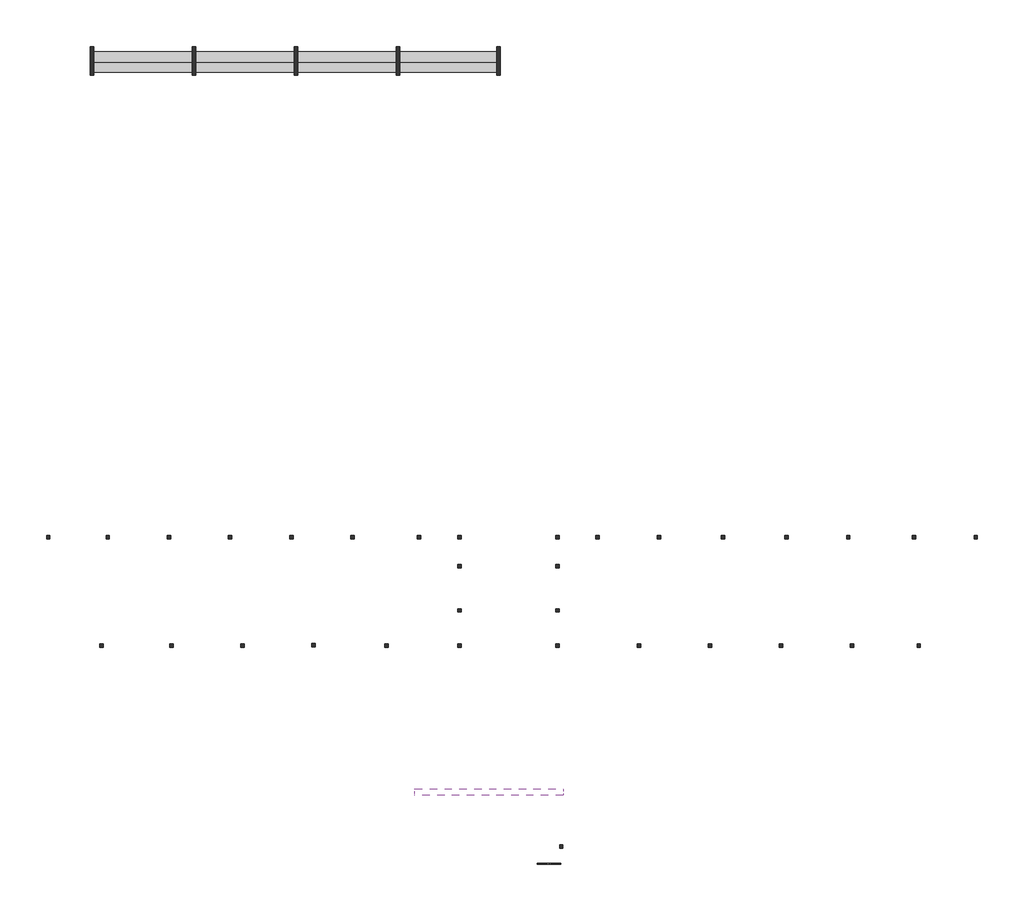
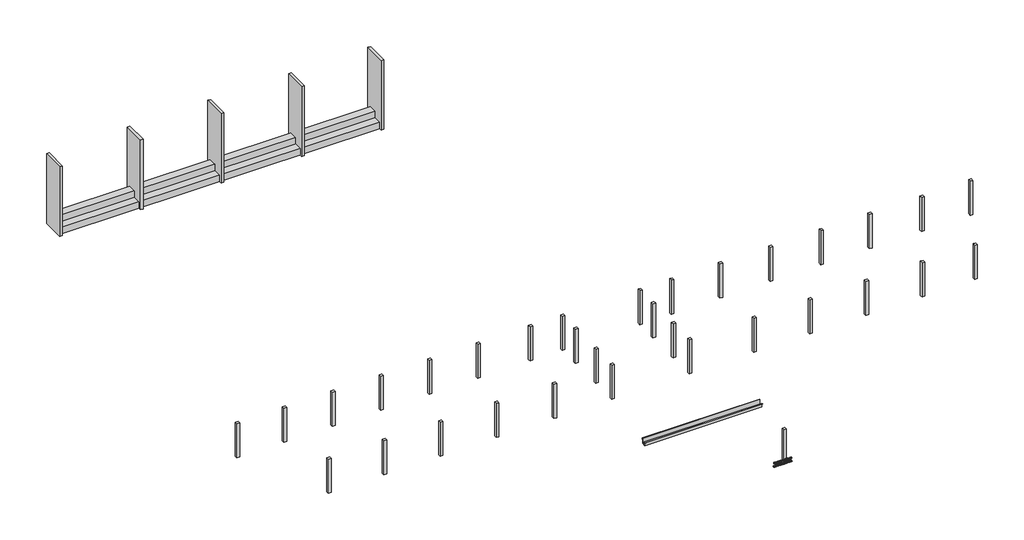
# One storey, incomplete: 38 columns, 3 proxies.
"""IFC4 building model written with IfcOpenShell, lengths in millimetres."""

from ifc_helpers import new_model, si_unit, frame, origin, place, context, project, spatial, polyline, outline, extrude, transform, mapped, element, save
from components import generic_models_8b9096ce, generic_models_4c986af3, column_bc19908c, fde_s601_pilarmadeira_retangular_l20xp20cm_9d354448

model = new_model("IFC4")

# Units and contexts
model_context = context("Model", 3, world=origin())
ifc_project = project(units=[si_unit("LENGTHUNIT", "METRE", prefix="MILLI")], contexts=[model_context])

# Site, building, storey
site = spatial("IfcSite", under=ifc_project)
building = spatial("IfcBuilding", under=site)
storey = spatial("IfcBuildingStorey", under=building, Name="Térreo - Acabado", Elevation=220.0)

# Proxies
placement = place(None, origin())
generic_models_shape = generic_models_8b9096ce(model_context)
element("IfcBuildingElementProxy", 1, Name="Arquibancada1 : Arquibancada", ObjectType="Arquibancada1 : Arquibancada", at=placement, inside=storey, context=model_context, shape_type="MappedRepresentation", body=[
    mapped(generic_models_shape, transform((-16758.5960699, 4064.2879286, -157.0), x_axis=(1.0, 0.0, 0.0), y_axis=(0.0, 1.0, 0.0), z_axis=(0.0, 0.0, 1.0))),
])
generic_models_2_shape = generic_models_4c986af3(model_context)
element("IfcBuildingElementProxy", 2, Name="Modelos genéricos 5 : Modelos genéricos 1", ObjectType="Modelos genéricos 5 : Modelos genéricos 1", at=placement, inside=storey, context=model_context, shape_type="MappedRepresentation", body=[
    mapped(generic_models_2_shape, transform((-18895.3081586, -8603.8417899, -5688.6531931), x_axis=(1.0, 0.0, 0.0), y_axis=(0.0, 1.0, 0.0), z_axis=(0.0, 0.0, 1.0))),
])
element("IfcBuildingElementProxy", 3, Name=".2", ObjectType=".2", at=placement, inside=storey, context=model_context, shape_type="SweptSolid", body=[
    extrude(outline(polyline([(1313.4572025, -29166.3446133), (1255.9449839, -29166.3446133), (1240.22416, -29167.9326372), (1230.5856517, -29172.6967091), (1225.6376389, -29181.1886518), (1223.9883013, -29193.9602884), (1227.3237647, -29208.7246191), (1236.8028574, -29217.2349559), (1255.9449839, -29219.7120281), (1313.4572025, -29219.7120281), (1313.4572025, -29232.2690668), (1255.5035255, -29232.2690668), (1230.3526598, -29228.4553568), (1222.2316647, -29223.3663225), (1216.2873048, -29215.7266398), (1211.4312625, -29192.783066), (1212.8261484, -29179.7477806), (1217.0108061, -29169.483873), (1231.4808312, -29157.1966143), (1255.5035255, -29153.7875745), (1313.4572025, -29153.7875745), (1313.4572025, -29166.3446133)])), frame((0.0, -17.6612909, 0.0), z_axis=(0.0, 1.0, 0.0), x_axis=(0.0, 0.0, 1.0)), (0.0, 0.0, 1.0), 50.0),
    extrude(outline(polyline([(1213.0008924, -29131.8127567), (1213.0008924, -29119.2557179), (1292.6105561, -29119.2557179), (1213.0008924, -29066.7712199), (1213.0008924, -29053.3312644), (1313.4572025, -29053.3312644), (1313.4572025, -29065.8883031), (1233.8720642, -29065.8883031), (1313.4572025, -29118.3728011), (1313.4572025, -29131.8127567), (1213.0008924, -29131.8127567)])), frame((0.0, -17.6612909, 0.0), z_axis=(0.0, 1.0, 0.0), x_axis=(0.0, 0.0, 1.0)), (0.0, 0.0, 1.0), 50.0),
    extrude(outline(polyline([(-29017.2297779, -17.6612909), (-29029.7868167, -17.6612909), (-29029.7868167, 32.3387091), (-29017.2297779, 32.3387091), (-29017.2297779, -17.6612909)])), frame((0.0, 0.0, 1213.0008924), z_axis=(0.0, 0.0, 1.0), x_axis=(1.0, 0.0, 0.0)), (0.0, 0.0, 1.0), 100.4563101),
    extrude(outline(polyline([(1213.0008924, -28992.1157004), (1213.0008924, -28955.7934847), (1214.717675, -28939.6434651), (1219.7576583, -28927.6382493), (1228.8688691, -28918.4657249), (1243.4983098, -28911.5985944), (1263.7686077, -28908.9253185), (1287.6564119, -28912.8739186), (1304.8242384, -28924.7687698), (1312.0102, -28939.5331005), (1313.4572025, -28957.4612164), (1313.4572025, -28992.1157004), (1213.0008924, -28992.1157004)]), holes=[polyline([(1225.5579311, -28979.5586616), (1300.9001637, -28979.5586616), (1300.9001637, -28957.6819456), (1298.8890755, -28939.8764571), (1287.7545138, -28926.8411717), (1277.6500216, -28922.8220609), (1263.9648114, -28921.4823573), (1244.9698377, -28924.2169468), (1232.4986381, -28931.8566296), (1227.3728156, -28941.1763068), (1225.5579311, -28957.3385891), (1225.5579311, -28979.5586616)])]), frame((0.0, -17.6612909, 0.0), z_axis=(0.0, 1.0, 0.0), x_axis=(0.0, 0.0, 1.0)), (0.0, 0.0, 1.0), 50.0),
    extrude(outline(polyline([(1213.0008924, -28903.3580377), (1213.0008924, -28890.0897604), (1244.3934893, -28878.6118421), (1244.3934893, -28837.2373804), (1213.0008924, -28825.7349367), (1213.0008924, -28812.4666594), (1313.4572025, -28852.5657969), (1313.4572025, -28863.2589002), (1213.0008924, -28903.3580377)]), holes=[polyline([(1256.950528, -28874.0010544), (1283.8059137, -28864.1663424), (1300.9001637, -28857.9123485), (1281.6476727, -28850.8735397), (1256.950528, -28841.8236426), (1256.950528, -28874.0010544)])]), frame((0.0, -17.6612909, 0.0), z_axis=(0.0, 1.0, 0.0), x_axis=(0.0, 0.0, 1.0)), (0.0, 0.0, 1.0), 50.0),
    extrude(outline(polyline([(1213.0008924, -28799.0512293), (1213.0008924, -28762.7290136), (1214.717675, -28746.5789941), (1219.7576583, -28734.5737783), (1228.8688691, -28725.4012539), (1243.4983098, -28718.5341233), (1263.7686077, -28715.8608475), (1287.6564119, -28719.8094475), (1304.8242384, -28731.7042987), (1312.0102, -28746.4686295), (1313.4572025, -28764.3967454), (1313.4572025, -28799.0512293), (1213.0008924, -28799.0512293)]), holes=[polyline([(1225.5579311, -28786.4941905), (1300.9001637, -28786.4941905), (1300.9001637, -28764.6174746), (1298.8890755, -28746.811986), (1287.7545138, -28733.7767006), (1277.6500216, -28729.7575898), (1263.9648114, -28728.4178862), (1244.9698377, -28731.1524757), (1232.4986381, -28738.7921585), (1227.3728156, -28748.1118357), (1225.5579311, -28764.274118), (1225.5579311, -28786.4941905)])]), frame((0.0, -17.6612909, 0.0), z_axis=(0.0, 1.0, 0.0), x_axis=(0.0, 0.0, 1.0)), (0.0, 0.0, 1.0), 50.0),
    extrude(outline(polyline([(1213.0008924, -28698.5949191), (1213.0008924, -28624.8223164), (1225.5579311, -28624.8223164), (1225.5579311, -28686.0378804), (1258.5201579, -28686.0378804), (1258.5201579, -28629.5312059), (1271.0771967, -28629.5312059), (1271.0771967, -28686.0378804), (1300.9001637, -28686.0378804), (1300.9001637, -28626.3919462), (1313.4572025, -28626.3919462), (1313.4572025, -28698.5949191), (1213.0008924, -28698.5949191)])), frame((0.0, -17.6612909, 0.0), z_axis=(0.0, 1.0, 0.0), x_axis=(0.0, 0.0, 1.0)), (0.0, 0.0, 1.0), 50.0),
    extrude(outline(polyline([(1213.0008924, -28566.7460121), (1213.0008924, -28492.9734093), (1225.5579311, -28492.9734093), (1225.5579311, -28554.1889733), (1258.5201579, -28554.1889733), (1258.5201579, -28497.6822989), (1271.0771967, -28497.6822989), (1271.0771967, -28554.1889733), (1300.9001637, -28554.1889733), (1300.9001637, -28494.5430392), (1313.4572025, -28494.5430392), (1313.4572025, -28566.7460121), (1213.0008924, -28566.7460121)])), frame((0.0, -17.6612909, 0.0), z_axis=(0.0, 1.0, 0.0), x_axis=(0.0, 0.0, 1.0)), (0.0, 0.0, 1.0), 50.0),
    extrude(outline(polyline([(1247.532749, -28478.8467407), (1228.3538343, -28473.4266126), (1215.6496427, -28459.2386304), (1211.4312625, -28436.8100914), (1215.3430744, -28417.8151177), (1226.3059578, -28404.8656715), (1241.327806, -28400.3652484), (1255.528051, -28404.2770603), (1265.7061195, -28416.4294288), (1272.0091644, -28438.6495014), (1279.0234478, -28459.1527912), (1287.7299883, -28463.1504422), (1298.1533115, -28457.509585), (1302.4697936, -28439.5324181), (1298.1042606, -28421.6043022), (1292.6963952, -28416.7973108), (1285.2038653, -28414.491917), (1285.2038653, -28401.9348782), (1300.9246892, -28406.9135479), (1311.4461143, -28420.1572997), (1315.0268323, -28440.0229275), (1311.6055298, -28458.6377564), (1301.5746141, -28471.3542107), (1287.3621063, -28475.707481), (1274.8786439, -28472.1880766), (1265.5344413, -28461.507236), (1259.341761, -28441.8255492), (1254.5470323, -28423.5418141), (1248.8448614, -28415.0069518), (1241.0089749, -28412.9222872), (1232.5844772, -28415.7059276), (1226.2814324, -28424.1794762), (1223.9883013, -28437.3006007), (1227.0171964, -28452.359237), (1234.9634475, -28462.243), (1247.532749, -28466.2897019), (1247.532749, -28478.8467407)])), frame((0.0, -17.6612909, 0.0), z_axis=(0.0, 1.0, 0.0), x_axis=(0.0, 0.0, 1.0)), (0.0, 0.0, 1.0), 50.0),
    extrude(outline(polyline([(1248.7099714, -28310.8963472), (1237.9555544, -28314.9583775), (1230.2177697, -28321.5526623), (1225.5456684, -28330.286794), (1223.9883013, -28340.7683652), (1228.5623007, -28358.0956071), (1242.382401, -28369.8923565), (1264.0138624, -28373.681541), (1282.6777422, -28370.4809677), (1297.0987165, -28359.3831941), (1302.4697936, -28339.7382956), (1297.626014, -28322.7666729), (1282.1872329, -28312.465977), (1285.1793398, -28299.9089382), (1297.7854295, -28305.4547593), (1307.2032086, -28314.0969205), (1313.0709264, -28325.4798026), (1315.0268323, -28339.2477863), (1313.5154505, -28351.8661387), (1308.9813049, -28363.3808451), (1301.5347602, -28373.0898641), (1291.2861809, -28380.2911542), (1278.6371717, -28384.7517234), (1263.9893369, -28386.2385798), (1237.1339512, -28380.9778672), (1226.1036227, -28374.5154069), (1218.028613, -28365.6494508), (1213.0806001, -28354.0826277), (1211.4312625, -28339.5175664), (1213.6109633, -28325.1701686), (1220.1500658, -28313.2262665), (1230.8401034, -28304.1334498), (1245.4726098, -28298.3393084), (1248.7099714, -28310.8963472)])), frame((0.0, -17.6612909, 0.0), z_axis=(0.0, 1.0, 0.0), x_axis=(0.0, 0.0, 1.0)), (0.0, 0.0, 1.0), 50.0),
    extrude(outline(polyline([(1261.9046722, -28285.7822696), (1236.9009593, -28280.0433105), (1226.3366147, -28272.9554507), (1218.2616049, -28263.1697897), (1213.1388481, -28251.2872012), (1211.4312625, -28237.9085593), (1212.9763669, -28225.3055353), (1217.61168, -28213.5915594), (1225.2513628, -28203.6035633), (1235.8095761, -28196.1784783), (1248.6302636, -28191.5707563), (1263.0573692, -28190.034849), (1277.2944024, -28191.4941143), (1289.9372803, -28195.87191), (1300.4770994, -28203.0333462), (1308.4049564, -28212.8435327), (1313.3713634, -28224.6586761), (1315.0268323, -28237.8349829), (1311.5012966, -28257.0568172), (1300.9246892, -28272.391365), (1284.1186134, -28282.4345435), (1261.9046722, -28285.7822696)]), holes=[polyline([(1261.7820449, -28273.2252309), (1280.5716178, -28270.6071373), (1293.0888027, -28262.7528567), (1300.1245459, -28251.2688071), (1302.4697936, -28237.7614065), (1297.6014885, -28219.3305186), (1283.8794901, -28206.8593189), (1263.155471, -28202.5918878), (1246.5333362, -28205.0842883), (1234.1908953, -28212.5614899), (1226.5389498, -28223.9014524), (1223.9883013, -28237.9821357), (1226.5144243, -28251.860484), (1234.0927934, -28263.1820524), (1246.0673524, -28270.7144362), (1261.7820449, -28273.2252309)])]), frame((0.0, -17.6612909, 0.0), z_axis=(0.0, 1.0, 0.0), x_axis=(0.0, 0.0, 1.0)), (0.0, 0.0, 1.0), 50.0),
    extrude(outline(polyline([(1213.0008924, -28172.7689207), (1213.0008924, -28109.9837269), (1225.5579311, -28109.9837269), (1225.5579311, -28160.2118819), (1313.4572025, -28160.2118819), (1313.4572025, -28172.7689207), (1213.0008924, -28172.7689207)])), frame((0.0, -17.6612909, 0.0), z_axis=(0.0, 1.0, 0.0), x_axis=(0.0, 0.0, 1.0)), (0.0, 0.0, 1.0), 50.0),
    extrude(outline(polyline([(1213.0008924, -28107.5557057), (1213.0008924, -28094.2874284), (1244.3934893, -28082.8095102), (1244.3934893, -28041.4350484), (1213.0008924, -28029.9326047), (1213.0008924, -28016.6643274), (1313.4572025, -28056.7634649), (1313.4572025, -28067.4565682), (1213.0008924, -28107.5557057)]), holes=[polyline([(1256.950528, -28078.1987225), (1283.8059137, -28068.3640105), (1300.9001637, -28062.1100166), (1281.6476727, -28055.0712077), (1256.950528, -28046.0213106), (1256.950528, -28078.1987225)])]), frame((0.0, -17.6612909, 0.0), z_axis=(0.0, 1.0, 0.0), x_axis=(0.0, 0.0, 1.0)), (0.0, 0.0, 1.0), 50.0),
    extrude(outline(polyline([(1213.0008924, -28003.2488973), (1213.0008924, -27990.6918586), (1256.950528, -27990.6918586), (1256.950528, -27975.5351204), (1256.5090697, -27968.2510569), (1254.1178367, -27962.2791058), (1247.6063254, -27955.6449672), (1233.8230133, -27946.2026626), (1213.0008924, -27933.1305891), (1213.0008924, -27918.5379366), (1240.22416, -27935.2888301), (1253.1490808, -27945.4668986), (1258.5201579, -27952.6038093), (1261.8494899, -27940.2337772), (1267.8643606, -27931.5732219), (1276.0681291, -27926.4688593), (1285.9641547, -27924.767405), (1301.1576811, -27928.8754206), (1310.7471385, -27939.8628296), (1313.4572025, -27959.9614492), (1313.4572025, -28003.2488973), (1213.0008924, -28003.2488973)]), holes=[polyline([(1269.5075668, -27990.6918586), (1300.9001637, -27990.6918586), (1300.9001637, -27959.421889), (1296.5591562, -27942.6342073), (1285.4981709, -27937.3244438), (1276.9755713, -27940.1080842), (1271.2856631, -27948.2505391), (1269.5075668, -27962.5856741), (1269.5075668, -27990.6918586)])]), frame((0.0, -17.6612909, 0.0), z_axis=(0.0, 1.0, 0.0), x_axis=(0.0, 0.0, 1.0)), (0.0, 0.0, 1.0), 50.0),
    extrude(outline(polyline([(1003.5831133, -29276.2187025), (984.4041986, -29270.7985744), (971.700007, -29256.6105922), (967.4816268, -29234.1820532), (971.3934387, -29215.1870795), (982.3563222, -29202.2376333), (997.3781703, -29197.7372102), (1011.5784153, -29201.6490221), (1021.7564838, -29213.8013907), (1028.0595287, -29236.0214632), (1035.0738121, -29256.524753), (1043.7803526, -29260.522404), (1054.2036758, -29254.8815468), (1058.5201579, -29236.90438), (1054.1546249, -29218.9762641), (1048.7467596, -29214.1692727), (1041.2542296, -29211.8638788), (1041.2542296, -29199.3068401), (1056.9750535, -29204.2855097), (1067.4964786, -29217.5292615), (1071.0771967, -29237.3948893), (1067.6558941, -29256.0097182), (1057.6249784, -29268.7261725), (1043.4124706, -29273.0794428), (1030.9290083, -29269.5600384), (1021.5848056, -29258.8791978), (1015.3921253, -29239.1975111), (1010.5973967, -29220.9137759), (1004.8952257, -29212.3789136), (997.0593392, -29210.294249), (988.6348415, -29213.0778894), (982.3317967, -29221.551438), (980.0386656, -29234.6725625), (983.0675607, -29249.7311989), (991.0138118, -29259.6149618), (1003.5831133, -29263.6616637), (1003.5831133, -29276.2187025)])), frame((0.0, -17.6612909, 0.0), z_axis=(0.0, 1.0, 0.0), x_axis=(0.0, 0.0, 1.0)), (0.0, 0.0, 1.0), 50.0),
    extrude(outline(polyline([(969.0512567, -29190.6002995), (969.0512567, -29177.3320222), (1000.4438536, -29165.854104), (1000.4438536, -29124.4796422), (969.0512567, -29112.9771985), (969.0512567, -29099.7089212), (1069.5075668, -29139.8080587), (1069.5075668, -29150.501162), (969.0512567, -29190.6002995)]), holes=[polyline([(1013.0008924, -29161.2433163), (1039.856278, -29151.4086043), (1056.950528, -29145.1546104), (1037.698037, -29138.1158015), (1013.0008924, -29129.0659044), (1013.0008924, -29161.2433163)])]), frame((0.0, -17.6612909, 0.0), z_axis=(0.0, 1.0, 0.0), x_axis=(0.0, 0.0, 1.0)), (0.0, 0.0, 1.0), 50.0),
    extrude(outline(polyline([(969.0512567, -29061.1794136), (969.0512567, -29048.6223748), (1056.950528, -29048.6223748), (1056.950528, -29015.6601481), (1069.5075668, -29015.6601481), (1069.5075668, -29094.1416404), (1056.950528, -29094.1416404), (1056.950528, -29061.1794136), (969.0512567, -29061.1794136)])), frame((0.0, -17.6612909, 0.0), z_axis=(0.0, 1.0, 0.0), x_axis=(0.0, 0.0, 1.0)), (0.0, 0.0, 1.0), 50.0),
    extrude(outline(polyline([(1069.5075668, -28935.6090259), (1011.9953482, -28935.6090259), (996.2745243, -28937.1970499), (986.636016, -28941.9611217), (981.6880032, -28950.4530644), (980.0386656, -28963.224701), (983.374129, -28977.9890318), (992.8532218, -28986.4993686), (1011.9953482, -28988.9764407), (1069.5075668, -28988.9764407), (1069.5075668, -29001.5334794), (1011.5538898, -29001.5334794), (986.4030241, -28997.7197694), (978.2820291, -28992.6307352), (972.3376692, -28984.9910524), (967.4816268, -28962.0474786), (968.8765127, -28949.0121933), (973.0611704, -28938.7482856), (987.5311956, -28926.461027), (1011.5538898, -28923.0519871), (1069.5075668, -28923.0519871), (1069.5075668, -28935.6090259)])), frame((0.0, -17.6612909, 0.0), z_axis=(0.0, 1.0, 0.0), x_axis=(0.0, 0.0, 1.0)), (0.0, 0.0, 1.0), 50.0),
    extrude(outline(polyline([(969.0512567, -28901.0771693), (969.0512567, -28888.5201305), (1013.0008924, -28888.5201305), (1013.0008924, -28873.3633923), (1012.559434, -28866.0793288), (1010.168201, -28860.1073778), (1003.6566897, -28853.4732391), (989.8733776, -28844.0309346), (969.0512567, -28830.958861), (969.0512567, -28816.3662085), (996.2745243, -28833.1171021), (1009.1994451, -28843.2951706), (1014.5705222, -28850.4320813), (1017.8998543, -28838.0620492), (1023.9147249, -28829.4014939), (1032.1184934, -28824.2971312), (1042.014519, -28822.595677), (1057.2080454, -28826.7036926), (1066.7975028, -28837.6911015), (1069.5075668, -28857.7897212), (1069.5075668, -28901.0771693), (969.0512567, -28901.0771693)]), holes=[polyline([(1025.5579311, -28888.5201305), (1056.950528, -28888.5201305), (1056.950528, -28857.2501609), (1052.6095205, -28840.4624792), (1041.5485352, -28835.1527158), (1033.0259356, -28837.9363562), (1027.3360274, -28846.078811), (1025.5579311, -28860.4139461), (1025.5579311, -28888.5201305)])]), frame((0.0, -17.6612909, 0.0), z_axis=(0.0, 1.0, 0.0), x_axis=(0.0, 0.0, 1.0)), (0.0, 0.0, 1.0), 50.0),
    extrude(outline(polyline([(969.0512567, -28800.6208591), (969.0512567, -28788.0638204), (1048.6609204, -28788.0638204), (969.0512567, -28735.5793224), (969.0512567, -28722.1393668), (1069.5075668, -28722.1393668), (1069.5075668, -28734.6964056), (989.9224285, -28734.6964056), (1069.5075668, -28787.1809036), (1069.5075668, -28800.6208591), (969.0512567, -28800.6208591)])), frame((0.0, -17.6612909, 0.0), z_axis=(0.0, 1.0, 0.0), x_axis=(0.0, 0.0, 1.0)), (0.0, 0.0, 1.0), 50.0),
    extrude(outline(polyline([(-28686.0378804, -17.6612909), (-28698.5949191, -17.6612909), (-28698.5949191, 32.3387091), (-28686.0378804, 32.3387091), (-28686.0378804, -17.6612909)])), frame((0.0, 0.0, 969.0512567), z_axis=(0.0, 0.0, 1.0), x_axis=(1.0, 0.0, 0.0)), (0.0, 0.0, 1.0), 100.4563101),
    extrude(outline(polyline([(969.0512567, -28660.9238028), (969.0512567, -28648.3667641), (1048.6609204, -28648.3667641), (969.0512567, -28595.8822661), (969.0512567, -28582.4423105), (1069.5075668, -28582.4423105), (1069.5075668, -28594.9993493), (989.9224285, -28594.9993493), (1069.5075668, -28647.4838473), (1069.5075668, -28660.9238028), (969.0512567, -28660.9238028)])), frame((0.0, -17.6612909, 0.0), z_axis=(0.0, 1.0, 0.0), x_axis=(0.0, 0.0, 1.0)), (0.0, 0.0, 1.0), 50.0),
    extrude(outline(polyline([(1017.9550366, -28565.1763822), (992.9513236, -28559.4374231), (982.386979, -28552.3495633), (974.3119692, -28542.5639023), (969.1892124, -28530.6813138), (967.4816268, -28517.3026719), (969.0267312, -28504.6996479), (973.6620443, -28492.985672), (981.3017271, -28482.9976759), (991.8599404, -28475.5725909), (1004.6806279, -28470.964869), (1019.1077335, -28469.4289616), (1033.3447667, -28470.8882269), (1045.9876446, -28475.2660226), (1056.5274637, -28482.4274588), (1064.4553207, -28492.2376453), (1069.4217277, -28504.0527887), (1071.0771967, -28517.2290955), (1067.5516609, -28536.4509298), (1056.9750535, -28551.7854776), (1040.1689777, -28561.8286561), (1017.9550366, -28565.1763822)]), holes=[polyline([(1017.8324092, -28552.6193435), (1036.6219821, -28550.0012499), (1049.139167, -28542.1469693), (1056.1749102, -28530.6629197), (1058.5201579, -28517.1555191), (1053.6518528, -28498.7246312), (1039.9298544, -28486.2534315), (1019.2058353, -28481.9860004), (1002.5837005, -28484.4784009), (990.2412596, -28491.9556025), (982.5893141, -28503.295565), (980.0386656, -28517.3762483), (982.5647886, -28531.2545966), (990.1431577, -28542.576165), (1002.1177167, -28550.1085488), (1017.8324092, -28552.6193435)])]), frame((0.0, -17.6612909, 0.0), z_axis=(0.0, 1.0, 0.0), x_axis=(0.0, 0.0, 1.0)), (0.0, 0.0, 1.0), 50.0),
    extrude(outline(polyline([(969.0512567, -28412.9222872), (969.0512567, -28400.3652484), (1056.950528, -28400.3652484), (969.0512567, -28375.1285435), (969.0512567, -28358.1078699), (1056.950528, -28332.871165), (969.0512567, -28332.871165), (969.0512567, -28320.3141262), (1069.5075668, -28320.3141262), (1069.5075668, -28341.9210621), (999.9288188, -28362.1300464), (983.9136893, -28366.6182067), (998.7025455, -28370.7630105), (1069.5075668, -28391.3153513), (1069.5075668, -28412.9222872), (969.0512567, -28412.9222872)])), frame((0.0, -17.6612909, 0.0), z_axis=(0.0, 1.0, 0.0), x_axis=(0.0, 0.0, 1.0)), (0.0, 0.0, 1.0), 50.0),
    extrude(outline(polyline([(1017.9550366, -28303.0481979), (992.9513236, -28297.3092388), (982.386979, -28290.221379), (974.3119692, -28280.435718), (969.1892124, -28268.5531295), (967.4816268, -28255.1744876), (969.0267312, -28242.5714636), (973.6620443, -28230.8574877), (981.3017271, -28220.8694916), (991.8599404, -28213.4444066), (1004.6806279, -28208.8366847), (1019.1077335, -28207.3007773), (1033.3447667, -28208.7600426), (1045.9876446, -28213.1378383), (1056.5274637, -28220.2992745), (1064.4553207, -28230.109461), (1069.4217277, -28241.9246044), (1071.0771967, -28255.1009112), (1067.5516609, -28274.3227455), (1056.9750535, -28289.6572933), (1040.1689777, -28299.7004718), (1017.9550366, -28303.0481979)]), holes=[polyline([(1017.8324092, -28290.4911592), (1036.6219821, -28287.8730656), (1049.139167, -28280.018785), (1056.1749102, -28268.5347354), (1058.5201579, -28255.0273348), (1053.6518528, -28236.5964469), (1039.9298544, -28224.1252472), (1019.2058353, -28219.8578161), (1002.5837005, -28222.3502166), (990.2412596, -28229.8274182), (982.5893141, -28241.1673807), (980.0386656, -28255.248064), (982.5647886, -28269.1264123), (990.1431577, -28280.4479807), (1002.1177167, -28287.9803645), (1017.8324092, -28290.4911592)])]), frame((0.0, -17.6612909, 0.0), z_axis=(0.0, 1.0, 0.0), x_axis=(0.0, 0.0, 1.0)), (0.0, 0.0, 1.0), 50.0),
    extrude(outline(polyline([(1069.5075668, -28124.1103955), (1011.9953482, -28124.1103955), (996.2745243, -28125.6984194), (986.636016, -28130.4624913), (981.6880032, -28138.954434), (980.0386656, -28151.7260706), (983.374129, -28166.4904013), (992.8532218, -28175.0007381), (1011.9953482, -28177.4778102), (1069.5075668, -28177.4778102), (1069.5075668, -28190.034849), (1011.5538898, -28190.034849), (986.4030241, -28186.221139), (978.2820291, -28181.1321047), (972.3376692, -28173.492422), (967.4816268, -28150.5488482), (968.8765127, -28137.5135628), (973.0611704, -28127.2496552), (987.5311956, -28114.9623965), (1011.5538898, -28111.5533567), (1069.5075668, -28111.5533567), (1069.5075668, -28124.1103955)])), frame((0.0, -17.6612909, 0.0), z_axis=(0.0, 1.0, 0.0), x_axis=(0.0, 0.0, 1.0)), (0.0, 0.0, 1.0), 50.0),
    extrude(outline(polyline([(969.0512567, -28089.5785389), (969.0512567, -28077.0215001), (1013.0008924, -28077.0215001), (1013.0008924, -28061.8647619), (1012.559434, -28054.5806984), (1010.168201, -28048.6087473), (1003.6566897, -28041.9746087), (989.8733776, -28032.5323041), (969.0512567, -28019.4602306), (969.0512567, -28004.8675781), (996.2745243, -28021.6184716), (1009.1994451, -28031.7965402), (1014.5705222, -28038.9334509), (1017.8998543, -28026.5634188), (1023.9147249, -28017.9028635), (1032.1184934, -28012.7985008), (1042.014519, -28011.0970466), (1057.2080454, -28015.2050622), (1066.7975028, -28026.1924711), (1069.5075668, -28046.2910908), (1069.5075668, -28089.5785389), (969.0512567, -28089.5785389)]), holes=[polyline([(1025.5579311, -28077.0215001), (1056.950528, -28077.0215001), (1056.950528, -28045.7515305), (1052.6095205, -28028.9638488), (1041.5485352, -28023.6540853), (1033.0259356, -28026.4377258), (1027.3360274, -28034.5801806), (1025.5579311, -28048.9153157), (1025.5579311, -28077.0215001)])]), frame((0.0, -17.6612909, 0.0), z_axis=(0.0, 1.0, 0.0), x_axis=(0.0, 0.0, 1.0)), (0.0, 0.0, 1.0), 50.0),
    extrude(outline(polyline([(969.0512567, -28000.8208762), (969.0512567, -27987.5525989), (1000.4438536, -27976.0746806), (1000.4438536, -27934.7002189), (969.0512567, -27923.1977752), (969.0512567, -27909.9294979), (1069.5075668, -27950.0286354), (1069.5075668, -27960.7217387), (969.0512567, -28000.8208762)]), holes=[polyline([(1013.0008924, -27971.4638929), (1039.856278, -27961.6291809), (1056.950528, -27955.375187), (1037.698037, -27948.3363782), (1013.0008924, -27939.2864811), (1013.0008924, -27971.4638929)])]), frame((0.0, -17.6612909, 0.0), z_axis=(0.0, 1.0, 0.0), x_axis=(0.0, 0.0, 1.0)), (0.0, 0.0, 1.0), 50.0),
])

# Columns
column_shape = column_bc19908c(model_context)
element("IfcColumn", 4, ObjectType="Coluna de Sustentação de tijolo Maciço : coluna da quadra 2", at=placement, inside=storey, context=model_context, shape_type="MappedRepresentation", body=[
    mapped(column_shape, transform((-55486.66665, 47250.0, 0.0), x_axis=(0.0, 1.0, 0.0), y_axis=(-1.0, 0.0, 0.0), z_axis=(0.0, 0.0, 1.0))),
])
element("IfcColumn", 5, ObjectType="Coluna de Sustentação de tijolo Maciço : coluna da quadra 2", at=placement, inside=storey, context=model_context, shape_type="MappedRepresentation", body=[
    mapped(column_shape, transform((-49486.66665, 47250.0, 0.0), x_axis=(0.0, 1.0, 0.0), y_axis=(-1.0, 0.0, 0.0), z_axis=(0.0, 0.0, 1.0))),
])
element("IfcColumn", 6, ObjectType="Coluna de Sustentação de tijolo Maciço : coluna da quadra 2", at=placement, inside=storey, context=model_context, shape_type="MappedRepresentation", body=[
    mapped(column_shape, transform((-43486.66665, 47250.0, 0.0), x_axis=(0.0, 1.0, 0.0), y_axis=(-1.0, 0.0, 0.0), z_axis=(0.0, 0.0, 1.0))),
])
element("IfcColumn", 7, ObjectType="Coluna de Sustentação de tijolo Maciço : coluna da quadra 2", at=placement, inside=storey, context=model_context, shape_type="MappedRepresentation", body=[
    mapped(column_shape, transform((-37486.66665, 47250.0, 0.0), x_axis=(0.0, 1.0, 0.0), y_axis=(-1.0, 0.0, 0.0), z_axis=(0.0, 0.0, 1.0))),
])
element("IfcColumn", 8, ObjectType="Coluna de Sustentação de tijolo Maciço : coluna da quadra 2", at=placement, inside=storey, context=model_context, shape_type="MappedRepresentation", body=[
    mapped(column_shape, transform((-31576.66665, 47250.0, 0.0), x_axis=(0.0, 1.0, 0.0), y_axis=(-1.0, 0.0, 0.0), z_axis=(0.0, 0.0, 1.0))),
])
fde_s601_pilarmadeira_retangular_l20xp20cm_shape = fde_s601_pilarmadeira_retangular_l20xp20cm_9d354448(model_context)
element("IfcColumn", 9, ObjectType="FDE_S601_PilarMadeira_Retangular : L20xP20cm", at=placement, inside=storey, context=model_context, shape_type="MappedRepresentation", body=[
    mapped(fde_s601_pilarmadeira_retangular_l20xp20cm_shape, transform((-54923.4091269, 12850.0, 0.0), x_axis=(1.0, 0.0, 0.0), y_axis=(0.0, 1.0, 0.0), z_axis=(0.0, 0.0, 1.0))),
])
element("IfcColumn", 10, ObjectType="FDE_S601_PilarMadeira_Retangular : L20xP20cm", at=placement, inside=storey, context=model_context, shape_type="MappedRepresentation", body=[
    mapped(fde_s601_pilarmadeira_retangular_l20xp20cm_shape, transform((-50798.4091269, 12850.0, 0.0), x_axis=(1.0, 0.0, 0.0), y_axis=(0.0, 1.0, 0.0), z_axis=(0.0, 0.0, 1.0))),
])
element("IfcColumn", 11, ObjectType="FDE_S601_PilarMadeira_Retangular : L20xP20cm", at=placement, inside=storey, context=model_context, shape_type="MappedRepresentation", body=[
    mapped(fde_s601_pilarmadeira_retangular_l20xp20cm_shape, transform((-46623.4091269, 12850.0, 0.0), x_axis=(1.0, 0.0, 0.0), y_axis=(0.0, 1.0, 0.0), z_axis=(0.0, 0.0, 1.0))),
])
element("IfcColumn", 12, ObjectType="FDE_S601_PilarMadeira_Retangular : L20xP20cm", at=placement, inside=storey, context=model_context, shape_type="MappedRepresentation", body=[
    mapped(fde_s601_pilarmadeira_retangular_l20xp20cm_shape, transform((-42448.4091269, 12865.0, 0.0), x_axis=(1.0, 0.0, 0.0), y_axis=(0.0, 1.0, 0.0), z_axis=(0.0, 0.0, 1.0))),
])
element("IfcColumn", 13, ObjectType="FDE_S601_PilarMadeira_Retangular : L20xP20cm", at=placement, inside=storey, context=model_context, shape_type="MappedRepresentation", body=[
    mapped(fde_s601_pilarmadeira_retangular_l20xp20cm_shape, transform((-38150.9091269, 12850.0, 0.0), x_axis=(1.0, 0.0, 0.0), y_axis=(0.0, 1.0, 0.0), z_axis=(0.0, 0.0, 1.0))),
])
element("IfcColumn", 14, ObjectType="FDE_S601_PilarMadeira_Retangular : L20xP20cm", at=placement, inside=storey, context=model_context, shape_type="MappedRepresentation", body=[
    mapped(fde_s601_pilarmadeira_retangular_l20xp20cm_shape, transform((-33853.4091269, 12850.0, 0.0), x_axis=(1.0, 0.0, 0.0), y_axis=(0.0, 1.0, 0.0), z_axis=(0.0, 0.0, 1.0))),
])
element("IfcColumn", 15, ObjectType="FDE_S601_PilarMadeira_Retangular : L20xP20cm", at=placement, inside=storey, context=model_context, shape_type="MappedRepresentation", body=[
    mapped(fde_s601_pilarmadeira_retangular_l20xp20cm_shape, transform((-28100.0, 12850.0, 0.0), x_axis=(1.0, 0.0, 0.0), y_axis=(0.0, 1.0, 0.0), z_axis=(0.0, 0.0, 1.0))),
])
element("IfcColumn", 16, ObjectType="FDE_S601_PilarMadeira_Retangular : L20xP20cm", at=placement, inside=storey, context=model_context, shape_type="MappedRepresentation", body=[
    mapped(fde_s601_pilarmadeira_retangular_l20xp20cm_shape, transform((-23300.0, 12850.0, 0.0), x_axis=(1.0, 0.0, 0.0), y_axis=(0.0, 1.0, 0.0), z_axis=(0.0, 0.0, 1.0))),
])
element("IfcColumn", 17, ObjectType="FDE_S601_PilarMadeira_Retangular : L20xP20cm", at=placement, inside=storey, context=model_context, shape_type="MappedRepresentation", body=[
    mapped(fde_s601_pilarmadeira_retangular_l20xp20cm_shape, transform((-19125.0, 12850.0, 0.0), x_axis=(1.0, 0.0, 0.0), y_axis=(0.0, 1.0, 0.0), z_axis=(0.0, 0.0, 1.0))),
])
element("IfcColumn", 18, ObjectType="FDE_S601_PilarMadeira_Retangular : L20xP20cm", at=placement, inside=storey, context=model_context, shape_type="MappedRepresentation", body=[
    mapped(fde_s601_pilarmadeira_retangular_l20xp20cm_shape, transform((-14950.0, 12850.0, 0.0), x_axis=(1.0, 0.0, 0.0), y_axis=(0.0, 1.0, 0.0), z_axis=(0.0, 0.0, 1.0))),
])
element("IfcColumn", 19, ObjectType="FDE_S601_PilarMadeira_Retangular : L20xP20cm", at=placement, inside=storey, context=model_context, shape_type="MappedRepresentation", body=[
    mapped(fde_s601_pilarmadeira_retangular_l20xp20cm_shape, transform((-10775.0, 12850.0, 0.0), x_axis=(1.0, 0.0, 0.0), y_axis=(0.0, 1.0, 0.0), z_axis=(0.0, 0.0, 1.0))),
])
element("IfcColumn", 20, ObjectType="FDE_S601_PilarMadeira_Retangular : L20xP20cm", at=placement, inside=storey, context=model_context, shape_type="MappedRepresentation", body=[
    mapped(fde_s601_pilarmadeira_retangular_l20xp20cm_shape, transform((-6850.0, 12850.0, 0.0), x_axis=(1.0, 0.0, 0.0), y_axis=(0.0, 1.0, 0.0), z_axis=(0.0, 0.0, 1.0))),
])
element("IfcColumn", 21, ObjectType="FDE_S601_PilarMadeira_Retangular : L20xP20cm", at=placement, inside=storey, context=model_context, shape_type="MappedRepresentation", body=[
    mapped(fde_s601_pilarmadeira_retangular_l20xp20cm_shape, transform((-33853.4091269, 19230.0, 0.0), x_axis=(1.0, 0.0, 0.0), y_axis=(0.0, 1.0, 0.0), z_axis=(0.0, 0.0, 1.0))),
])
element("IfcColumn", 22, ObjectType="FDE_S601_PilarMadeira_Retangular : L20xP20cm", at=placement, inside=storey, context=model_context, shape_type="MappedRepresentation", body=[
    mapped(fde_s601_pilarmadeira_retangular_l20xp20cm_shape, transform((-28100.0, 19230.0, 0.0), x_axis=(1.0, 0.0, 0.0), y_axis=(0.0, 1.0, 0.0), z_axis=(0.0, 0.0, 1.0))),
])
element("IfcColumn", 23, ObjectType="FDE_S601_PilarMadeira_Retangular : L20xP20cm", at=placement, inside=storey, context=model_context, shape_type="MappedRepresentation", body=[
    mapped(fde_s601_pilarmadeira_retangular_l20xp20cm_shape, transform((-25750.0, 19230.0, 0.0), x_axis=(1.0, 0.0, 0.0), y_axis=(0.0, 1.0, 0.0), z_axis=(0.0, 0.0, 1.0))),
])
element("IfcColumn", 24, ObjectType="FDE_S601_PilarMadeira_Retangular : L20xP20cm", at=placement, inside=storey, context=model_context, shape_type="MappedRepresentation", body=[
    mapped(fde_s601_pilarmadeira_retangular_l20xp20cm_shape, transform((-22125.0, 19230.0, 0.0), x_axis=(1.0, 0.0, 0.0), y_axis=(0.0, 1.0, 0.0), z_axis=(0.0, 0.0, 1.0))),
])
element("IfcColumn", 25, ObjectType="FDE_S601_PilarMadeira_Retangular : L20xP20cm", at=placement, inside=storey, context=model_context, shape_type="MappedRepresentation", body=[
    mapped(fde_s601_pilarmadeira_retangular_l20xp20cm_shape, transform((-18375.0, 19230.0, 0.0), x_axis=(1.0, 0.0, 0.0), y_axis=(0.0, 1.0, 0.0), z_axis=(0.0, 0.0, 1.0))),
])
element("IfcColumn", 26, ObjectType="FDE_S601_PilarMadeira_Retangular : L20xP20cm", at=placement, inside=storey, context=model_context, shape_type="MappedRepresentation", body=[
    mapped(fde_s601_pilarmadeira_retangular_l20xp20cm_shape, transform((-14625.0, 19230.0, 0.0), x_axis=(1.0, 0.0, 0.0), y_axis=(0.0, 1.0, 0.0), z_axis=(0.0, 0.0, 1.0))),
])
element("IfcColumn", 27, ObjectType="FDE_S601_PilarMadeira_Retangular : L20xP20cm", at=placement, inside=storey, context=model_context, shape_type="MappedRepresentation", body=[
    mapped(fde_s601_pilarmadeira_retangular_l20xp20cm_shape, transform((-11000.0, 19230.0, 0.0), x_axis=(1.0, 0.0, 0.0), y_axis=(0.0, 1.0, 0.0), z_axis=(0.0, 0.0, 1.0))),
])
element("IfcColumn", 28, ObjectType="FDE_S601_PilarMadeira_Retangular : L20xP20cm", at=placement, inside=storey, context=model_context, shape_type="MappedRepresentation", body=[
    mapped(fde_s601_pilarmadeira_retangular_l20xp20cm_shape, transform((-7125.0, 19230.0, 0.0), x_axis=(1.0, 0.0, 0.0), y_axis=(0.0, 1.0, 0.0), z_axis=(0.0, 0.0, 1.0))),
])
element("IfcColumn", 29, ObjectType="FDE_S601_PilarMadeira_Retangular : L20xP20cm", at=placement, inside=storey, context=model_context, shape_type="MappedRepresentation", body=[
    mapped(fde_s601_pilarmadeira_retangular_l20xp20cm_shape, transform((-3500.0, 19230.0, 0.0), x_axis=(1.0, 0.0, 0.0), y_axis=(0.0, 1.0, 0.0), z_axis=(0.0, 0.0, 1.0))),
])
element("IfcColumn", 30, ObjectType="FDE_S601_PilarMadeira_Retangular : L20xP20cm", at=placement, inside=storey, context=model_context, shape_type="MappedRepresentation", body=[
    mapped(fde_s601_pilarmadeira_retangular_l20xp20cm_shape, transform((-36250.0, 19230.0, 0.0), x_axis=(1.0, 0.0, 0.0), y_axis=(0.0, 1.0, 0.0), z_axis=(0.0, 0.0, 1.0))),
])
element("IfcColumn", 31, ObjectType="FDE_S601_PilarMadeira_Retangular : L20xP20cm", at=placement, inside=storey, context=model_context, shape_type="MappedRepresentation", body=[
    mapped(fde_s601_pilarmadeira_retangular_l20xp20cm_shape, transform((-40150.0, 19230.0, 0.0), x_axis=(1.0, 0.0, 0.0), y_axis=(0.0, 1.0, 0.0), z_axis=(0.0, 0.0, 1.0))),
])
element("IfcColumn", 32, ObjectType="FDE_S601_PilarMadeira_Retangular : L20xP20cm", at=placement, inside=storey, context=model_context, shape_type="MappedRepresentation", body=[
    mapped(fde_s601_pilarmadeira_retangular_l20xp20cm_shape, transform((-43750.0, 19230.0, 0.0), x_axis=(1.0, 0.0, 0.0), y_axis=(0.0, 1.0, 0.0), z_axis=(0.0, 0.0, 1.0))),
])
element("IfcColumn", 33, ObjectType="FDE_S601_PilarMadeira_Retangular : L20xP20cm", at=placement, inside=storey, context=model_context, shape_type="MappedRepresentation", body=[
    mapped(fde_s601_pilarmadeira_retangular_l20xp20cm_shape, transform((-47350.0, 19230.0, 0.0), x_axis=(1.0, 0.0, 0.0), y_axis=(0.0, 1.0, 0.0), z_axis=(0.0, 0.0, 1.0))),
])
element("IfcColumn", 34, ObjectType="FDE_S601_PilarMadeira_Retangular : L20xP20cm", at=placement, inside=storey, context=model_context, shape_type="MappedRepresentation", body=[
    mapped(fde_s601_pilarmadeira_retangular_l20xp20cm_shape, transform((-50950.0, 19230.0, 0.0), x_axis=(1.0, 0.0, 0.0), y_axis=(0.0, 1.0, 0.0), z_axis=(0.0, 0.0, 1.0))),
])
element("IfcColumn", 35, ObjectType="FDE_S601_PilarMadeira_Retangular : L20xP20cm", at=placement, inside=storey, context=model_context, shape_type="MappedRepresentation", body=[
    mapped(fde_s601_pilarmadeira_retangular_l20xp20cm_shape, transform((-54550.0, 19230.0, 0.0), x_axis=(1.0, 0.0, 0.0), y_axis=(0.0, 1.0, 0.0), z_axis=(0.0, 0.0, 1.0))),
])
element("IfcColumn", 36, ObjectType="FDE_S601_PilarMadeira_Retangular : L20xP20cm", at=placement, inside=storey, context=model_context, shape_type="MappedRepresentation", body=[
    mapped(fde_s601_pilarmadeira_retangular_l20xp20cm_shape, transform((-58050.0, 19230.0, 0.0), x_axis=(1.0, 0.0, 0.0), y_axis=(0.0, 1.0, 0.0), z_axis=(0.0, 0.0, 1.0))),
])
element("IfcColumn", 37, ObjectType="FDE_S601_PilarMadeira_Retangular : L20xP20cm", at=placement, inside=storey, context=model_context, shape_type="MappedRepresentation", body=[
    mapped(fde_s601_pilarmadeira_retangular_l20xp20cm_shape, transform((-27879.7378789, 1028.5326612, 0.0), x_axis=(1.0, 0.0, 0.0), y_axis=(0.0, 1.0, 0.0), z_axis=(0.0, 0.0, 1.0))),
])
element("IfcColumn", 38, ObjectType="FDE_S601_PilarMadeira_Retangular : L20xP20cm", at=placement, inside=storey, context=model_context, shape_type="MappedRepresentation", body=[
    mapped(fde_s601_pilarmadeira_retangular_l20xp20cm_shape, transform((-33853.4091269, 14920.0, 0.0), x_axis=(1.0, 0.0, 0.0), y_axis=(0.0, 1.0, 0.0), z_axis=(0.0, 0.0, 1.0))),
])
element("IfcColumn", 39, ObjectType="FDE_S601_PilarMadeira_Retangular : L20xP20cm", at=placement, inside=storey, context=model_context, shape_type="MappedRepresentation", body=[
    mapped(fde_s601_pilarmadeira_retangular_l20xp20cm_shape, transform((-28100.0, 14920.0, 0.0), x_axis=(1.0, 0.0, 0.0), y_axis=(0.0, 1.0, 0.0), z_axis=(0.0, 0.0, 1.0))),
])
element("IfcColumn", 40, ObjectType="FDE_S601_PilarMadeira_Retangular : L20xP20cm", at=placement, inside=storey, context=model_context, shape_type="MappedRepresentation", body=[
    mapped(fde_s601_pilarmadeira_retangular_l20xp20cm_shape, transform((-33853.4091269, 17520.0, 0.0), x_axis=(1.0, 0.0, 0.0), y_axis=(0.0, 1.0, 0.0), z_axis=(0.0, 0.0, 1.0))),
])
element("IfcColumn", 41, ObjectType="FDE_S601_PilarMadeira_Retangular : L20xP20cm", at=placement, inside=storey, context=model_context, shape_type="MappedRepresentation", body=[
    mapped(fde_s601_pilarmadeira_retangular_l20xp20cm_shape, transform((-28100.0, 17520.0, 0.0), x_axis=(1.0, 0.0, 0.0), y_axis=(0.0, 1.0, 0.0), z_axis=(0.0, 0.0, 1.0))),
])

save(model, "model.ifc")
